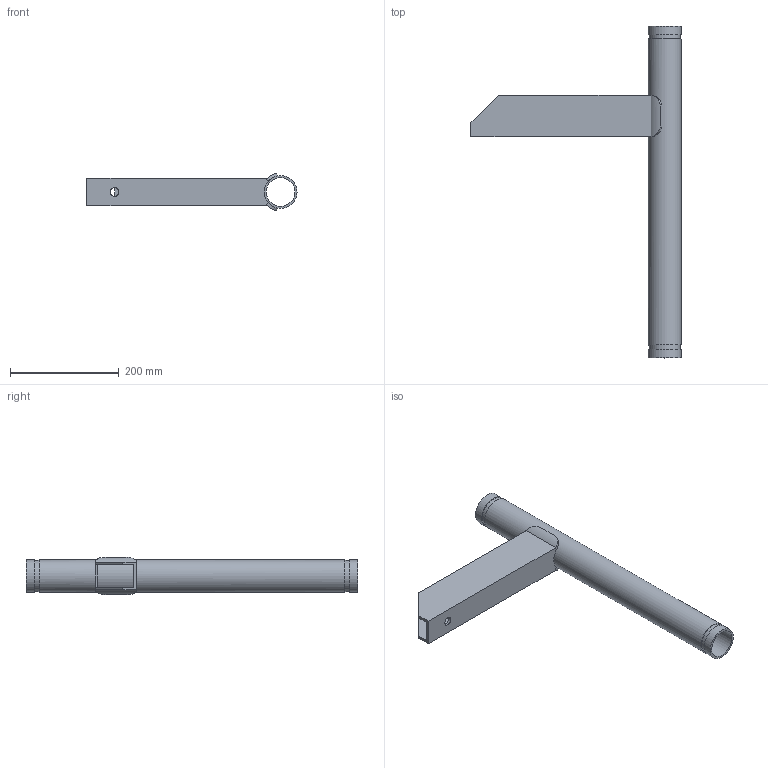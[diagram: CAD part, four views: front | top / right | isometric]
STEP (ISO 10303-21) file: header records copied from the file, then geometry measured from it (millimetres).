
FILE_DESCRIPTION(/* description */ ('VIC SS FLOOR MOUNTED RISER ANCHOR No A40S'),/* implementation_level */ '2;1');
FILE_NAME(/* name */ 'C:\Files for Export\A40 & A40S-STEP-SWX\STEP\Victaulic_SS-OGS_Riser Anchor_No A40S (OGS)\Victaulic_SS-OGS_Riser Anchor_No A40S (OGS)_2 (50).stp',/* time_stamp */ '2024-06-07T07:36:46+02:00',/* author */ ('kkamble'),/* organization */ ('Victaulic'),/* preprocessor_version */ 'ST-DEVELOPER v18.1',/* originating_system */ 'Autodesk Inventor 2020',/* authorisation */ '');
FILE_SCHEMA (('AUTOMOTIVE_DESIGN { 1 0 10303 214 3 1 1 }'));
Length unit declared in the file: inch
Products named in the file (1): A40S-02.0
Bounding box: 385.76 x 609.6 x 68.58 mm (x, y, z)
Volume: 809846.3 mm3; surface area: 364177.8 mm2
Topology: 1 solids, 1 shells, 34 faces, 94 edges, 66 vertices
Faces by surface type: plane 20, cylinder 14
Full cylindrical faces by diameter (mm): 15.875 x1, 52.578 x1, 57.15 x2, 60.325 x3
Entity records: 1327 total; most frequent: CARTESIAN_POINT 339, DIRECTION 192, ORIENTED_EDGE 188, EDGE_CURVE 94, AXIS2_PLACEMENT_3D 71, VERTEX_POINT 66, LINE 50, VECTOR 50
